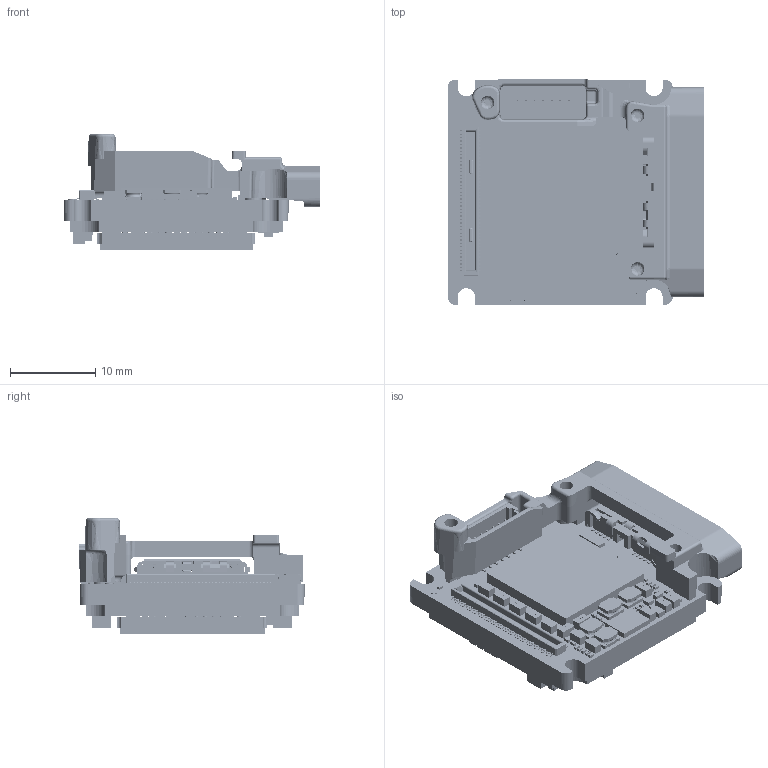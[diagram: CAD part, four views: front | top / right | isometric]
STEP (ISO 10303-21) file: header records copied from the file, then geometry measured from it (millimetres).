
FILE_DESCRIPTION (( 'STEP AP214' ), '1' );
FILE_NAME ('Alvium-USB90-Bare-Board-IMX18x17.STEP', '2022-10-24T08:36:35', ( '' ), ( '' ), 'SwSTEP 2.0', 'SolidWorks 2021', '' );
FILE_SCHEMA (( 'AUTOMOTIVE_DESIGN' ));
Length unit declared in the file: millimetre
Products named in the file (1): Alvium-USB90-Bare-Board-IMX18x17
Bounding box: 30.1 x 26.45 x 13.54 mm (x, y, z)
Volume: 4169.5 mm3; surface area: 6253.5 mm2
Topology: 162 solids, 162 shells, 11201 faces, 28531 edges, 18707 vertices
Faces by surface type: plane 5584, bspline 4316, cylinder 1223, cone 38, torus 32, sphere 8
Entity records: 707134 total; most frequent: CARTESIAN_POINT 339920, ORIENTED_EDGE 57048, DIRECTION 35860, EDGE_CURVE 28524, VERTEX_POINT 18707, LINE 17192, VECTOR 17192, EDGE_LOOP 12305
